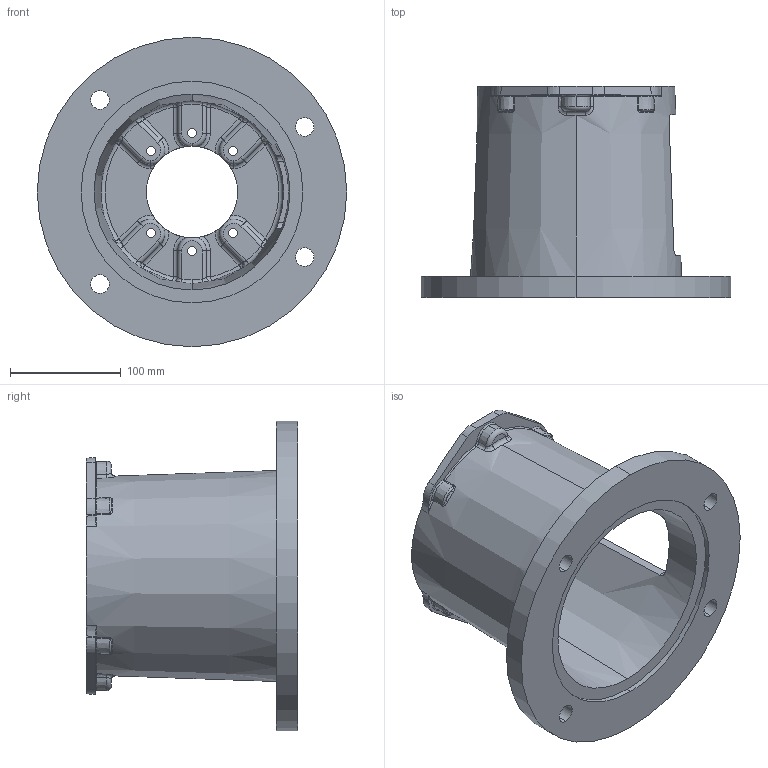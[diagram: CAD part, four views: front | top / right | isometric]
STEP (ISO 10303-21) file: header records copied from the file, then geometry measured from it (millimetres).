
FILE_DESCRIPTION (( 'STEP AP203' ), '1' );
FILE_NAME ('E787752A.STEP', '2014-11-04T15:39:59', ( '' ), ( '' ), 'SwSTEP 2.0', 'SolidWorks 2014', '' );
FILE_SCHEMA (( 'CONFIG_CONTROL_DESIGN' ));
Length unit declared in the file: inch
Products named in the file (1): E787752A
Bounding box: 279.4 x 190.5 x 279.4 mm (x, y, z)
Volume: 1545467.4 mm3; surface area: 324570.5 mm2
Topology: 1 solids, 1 shells, 355 faces, 902 edges, 539 vertices
Faces by surface type: torus 107, cylinder 86, bspline 64, plane 50, sphere 24, cone 24
Entity records: 14371 total; most frequent: CARTESIAN_POINT 6101, ORIENTED_EDGE 1780, DIRECTION 1744, EDGE_CURVE 890, AXIS2_PLACEMENT_3D 792, VERTEX_POINT 539, CIRCLE 500, EDGE_LOOP 381
